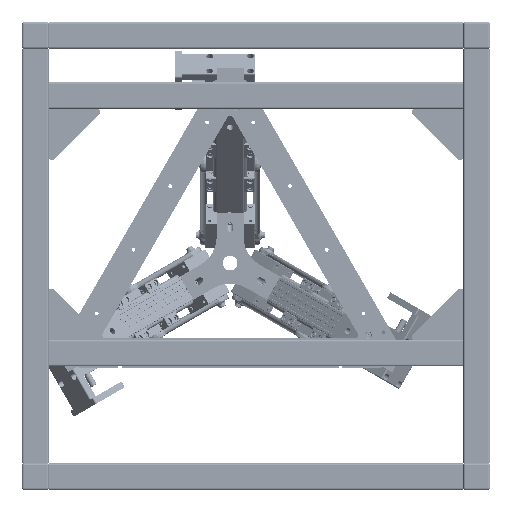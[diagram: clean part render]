
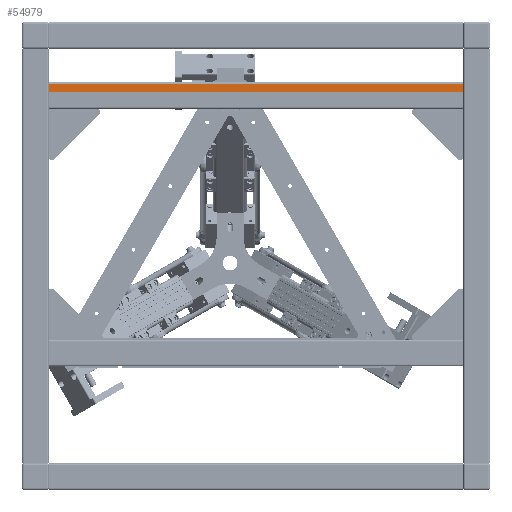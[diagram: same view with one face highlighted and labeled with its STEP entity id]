
A CAD part, front view. The second image highlights one B-rep face of the part: STEP entity #54979.
In plain terms, the highlighted planar face has unit normal (0, -1, 0) as drawn and (0, 1, 0) by its records, which use the part's own axes.
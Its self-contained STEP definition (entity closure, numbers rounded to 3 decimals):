
#4138=PLANE('',#61656);
#7975=FACE_OUTER_BOUND('',#11305,.T.);
#11305=EDGE_LOOP('',(#51449,#51450,#51451,#51452));
#15887=LINE('',#103779,#20632);
#15984=LINE('',#103980,#20729);
#15985=LINE('',#103983,#20730);
#15986=LINE('',#103984,#20731);
#20632=VECTOR('',#76955,10.);
#20729=VECTOR('',#77136,10.);
#20730=VECTOR('',#77139,10.);
#20731=VECTOR('',#77140,10.);
#28399=VERTEX_POINT('',#103776);
#28400=VERTEX_POINT('',#103778);
#28462=VERTEX_POINT('',#103978);
#28463=VERTEX_POINT('',#103982);
#36087=EDGE_CURVE('',#28399,#28400,#15887,.T.);
#36188=EDGE_CURVE('',#28462,#28399,#15984,.T.);
#36189=EDGE_CURVE('',#28463,#28462,#15985,.T.);
#36190=EDGE_CURVE('',#28463,#28400,#15986,.T.);
#51449=ORIENTED_EDGE('',*,*,#36188,.F.);
#51450=ORIENTED_EDGE('',*,*,#36189,.F.);
#51451=ORIENTED_EDGE('',*,*,#36190,.T.);
#51452=ORIENTED_EDGE('',*,*,#36087,.F.);
#54979=ADVANCED_FACE('',(#7975),#4138,.T.);
#61656=AXIS2_PLACEMENT_3D('',#103981,#77137,#77138);
#76955=DIRECTION('',(1.,0.,0.));
#77136=DIRECTION('',(0.,0.,-1.));
#77137=DIRECTION('center_axis',(0.,1.,0.));
#77138=DIRECTION('ref_axis',(-1.,0.,0.));
#77139=DIRECTION('',(-1.,0.,0.));
#77140=DIRECTION('',(0.,0.,-1.));
#103776=CARTESIAN_POINT('',(5.8,20.,-309.));
#103778=CARTESIAN_POINT('',(17.,20.,-309.));
#103779=CARTESIAN_POINT('',(5.8,20.,-309.));
#103978=CARTESIAN_POINT('',(5.8,20.,309.));
#103980=CARTESIAN_POINT('',(5.8,20.,0.));
#103981=CARTESIAN_POINT('Origin',(17.,20.,0.));
#103982=CARTESIAN_POINT('',(17.,20.,309.));
#103983=CARTESIAN_POINT('',(5.8,20.,309.));
#103984=CARTESIAN_POINT('',(17.,20.,0.));
